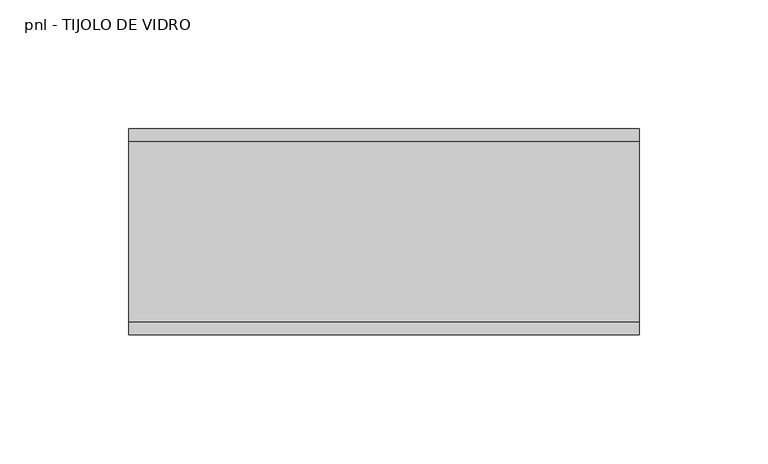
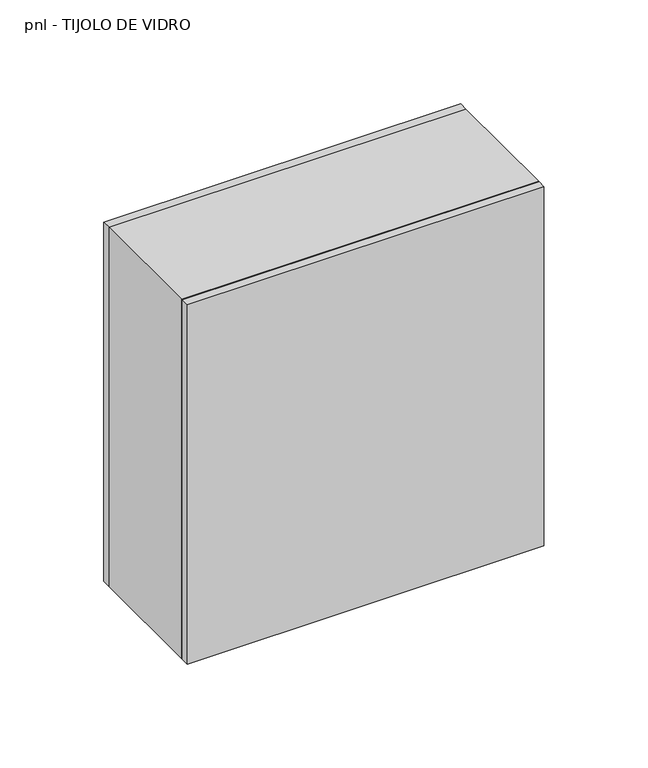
"""IFC4 building model written with IfcOpenShell, lengths in millimetres: plate geometry, pnl - TIJOLO DE VIDRO : e = 8."""

import ifcopenshell
import ifcopenshell.guid

model = None  # the IFC model being written
_history = None  # IfcOwnerHistory: only IFC2X3 demands one
_inside = {}  # id of a spatial element -> (the spatial element, [elements in it])
_under = {}  # id of a project, library or spatial element -> (it, [spatial elements below it])
_declared = {}  # id of a project -> (the project, [libraries it declares])
_typed = {}  # id of a type object -> (the type object, [elements of that type])
_made_of = {}  # id of a material, layer set ... -> (it, [elements and type objects made of it])


def new_model(schema):
    """Start an empty IFC model of exactly this schema.

    Asked for "IFC4X3", IfcOpenShell would pick the latest addendum, in which some entities
    have other attributes; the version numbers below select the first issue.
    IFC2X3 requires an IfcOwnerHistory on every rooted entity: one is made here for all.
    """
    global model, _history
    if schema == "IFC4X3":
        model = ifcopenshell.file(schema_version=(4, 3, 0, 0))
    else:
        model = ifcopenshell.file(schema=schema)
    _inside.clear()
    _under.clear()
    _declared.clear()
    _typed.clear()
    _made_of.clear()
    _history = None
    if model.schema == "IFC2X3":
        org = make("IfcOrganization", Name="unknown")
        user = make(
            "IfcPersonAndOrganization",
            ThePerson=make("IfcPerson", FamilyName="unknown"),
            TheOrganization=org,
        )
        app = make(
            "IfcApplication",
            ApplicationDeveloper=org,
            Version="unknown",
            ApplicationFullName="unknown",
            ApplicationIdentifier="unknown",
        )
        _history = make(
            "IfcOwnerHistory",
            OwningUser=user,
            OwningApplication=app,
            ChangeAction="ADDED",
            CreationDate=0,
        )
    return model


def make(cls, **values):
    """One entity of the class cls with the attributes given. An attribute that is None is left unset."""
    return model.create_entity(
        cls, **{name: value for name, value in values.items() if value is not None}
    )


def rooted(cls, **values):
    """An entity with a GlobalId (a new one), such as an element, a storey or a relation."""
    return make(cls, GlobalId=ifcopenshell.guid.new(), OwnerHistory=_history, **values)


def si_unit(unit_type, name, prefix=None):
    """IfcSIUnit, for example si_unit("LENGTHUNIT", "METRE", prefix="MILLI")."""
    return make("IfcSIUnit", UnitType=unit_type, Prefix=prefix, Name=name)


def assignment(units):
    """IfcUnitAssignment: the units of a project."""
    return None if units is None else make("IfcUnitAssignment", Units=units)


def point(xyz):
    """IfcCartesianPoint."""
    return None if xyz is None else make("IfcCartesianPoint", Coordinates=xyz)


def direction(xyz):
    """IfcDirection."""
    return None if xyz is None else make("IfcDirection", DirectionRatios=xyz)


def frame(location, z_axis=None, x_axis=None):
    """IfcAxis2Placement3D, a coordinate frame: its origin and axes. An axis left out is left unset."""
    return make(
        "IfcAxis2Placement3D",
        Location=point(location),
        Axis=direction(z_axis),
        RefDirection=direction(x_axis),
    )


def origin():
    """The frame at (0, 0, 0) with its axes left unset."""
    return frame((0.0, 0.0, 0.0))


def place(relative_to, where):
    """IfcLocalPlacement: puts the frame where relative to a parent placement (None: the world)."""
    return make(
        "IfcLocalPlacement", PlacementRelTo=relative_to, RelativePlacement=where
    )


def context(
    kind, dimensions, precision=None, world=None, true_north=None, identifier=None
):
    """IfcGeometricRepresentationContext, for example the 3D "Model" context."""
    return make(
        "IfcGeometricRepresentationContext",
        ContextIdentifier=identifier,
        ContextType=kind,
        CoordinateSpaceDimension=dimensions,
        Precision=precision,
        WorldCoordinateSystem=world,
        TrueNorth=true_north,
    )


def project(units=None, contexts=None):
    """IfcProject with its units and contexts."""
    return rooted(
        "IfcProject",
        Name="project",
        RepresentationContexts=contexts,
        UnitsInContext=assignment(units),
    )


def spatial(cls, under=None, at=None, **own):
    """A site, building, storey or space (cls), placed at a placement, below another one or the project."""
    s = rooted(cls, ObjectPlacement=at, **own)
    if under is not None:
        _under.setdefault(under.id(), (under, []))[1].append(s)
    return s


def polyline(points):
    """IfcPolyline through the points."""
    return make("IfcPolyline", Points=[point(p) for p in points])


def outline(outer, holes=None, kind="AREA"):
    """IfcArbitraryClosedProfileDef: a profile drawn as a closed curve; with holes, ...WithVoids."""
    if holes is None:
        return make("IfcArbitraryClosedProfileDef", ProfileType=kind, OuterCurve=outer)
    return make(
        "IfcArbitraryProfileDefWithVoids",
        ProfileType=kind,
        OuterCurve=outer,
        InnerCurves=holes,
    )


def extrude(swept, where, along, depth):
    """IfcExtrudedAreaSolid: the profile swept, set in the frame where, extruded along a direction by depth."""
    return make(
        "IfcExtrudedAreaSolid",
        SweptArea=swept,
        Position=where,
        ExtrudedDirection=direction(along),
        Depth=depth,
    )


def faces_of(points, faces, orient=None, outer=None):
    """IfcFace entities. A face is a list of loops; a loop is a list of indices into points, from 0.

    orient and outer hold one flag for each loop. By default every Orientation is true, the
    first loop of a face is its IfcFaceOuterBound and the others are IfcFaceBound.
    """
    made = []
    for i, loops in enumerate(faces):
        bounds = []
        for j, loop in enumerate(loops):
            is_outer = j == 0 if outer is None else outer[i][j]
            bounds.append(
                make(
                    "IfcFaceOuterBound" if is_outer else "IfcFaceBound",
                    Bound=make("IfcPolyLoop", Polygon=[points[k] for k in loop]),
                    Orientation=True if orient is None else orient[i][j],
                )
            )
        made.append(make("IfcFace", Bounds=bounds))
    return made


def faceted_brep(points, faces, orient=None, outer=None, voids=None):
    """IfcFacetedBrep: a solid bounded by flat faces; with voids (closed shells), ...WithVoids."""
    shared = [point(p) for p in points]
    hull = make("IfcClosedShell", CfsFaces=faces_of(shared, faces, orient, outer))
    if voids is None:
        return make("IfcFacetedBrep", Outer=hull)
    return make(
        "IfcFacetedBrepWithVoids",
        Outer=hull,
        Voids=[
            make(cls, CfsFaces=faces_of(shared, fs, o, b)) for cls, fs, o, b in voids
        ],
    )


def shape(context_of_items, identifier, shape_type, items):
    """IfcShapeRepresentation: the items that make up one representation, for example the "Body"."""
    return make(
        "IfcShapeRepresentation",
        ContextOfItems=context_of_items,
        RepresentationIdentifier=identifier,
        RepresentationType=shape_type,
        Items=items,
    )


def source(mapping_origin, context_of_items, identifier, shape_type, items):
    """IfcRepresentationMap: a shape defined once, which mapped items show again and again."""
    return make(
        "IfcRepresentationMap",
        MappingOrigin=mapping_origin,
        MappedRepresentation=shape(context_of_items, identifier, shape_type, items),
    )


def transform(
    local_origin,
    x_axis=None,
    y_axis=None,
    z_axis=None,
    scale=None,
    scale2=None,
    scale3=None,
    uniform=True,
):
    """IfcCartesianTransformationOperator3D, or its non-uniform kind. x_axis, y_axis, z_axis: its Axis1, 2, 3."""
    if uniform:
        return make(
            "IfcCartesianTransformationOperator3D",
            Axis1=direction(x_axis),
            Axis2=direction(y_axis),
            LocalOrigin=point(local_origin),
            Scale=scale,
            Axis3=direction(z_axis),
        )
    return make(
        "IfcCartesianTransformationOperator3DnonUniform",
        Axis1=direction(x_axis),
        Axis2=direction(y_axis),
        LocalOrigin=point(local_origin),
        Scale=scale,
        Axis3=direction(z_axis),
        Scale2=scale2,
        Scale3=scale3,
    )


def mapped(mapping_source, mapping_target):
    """IfcMappedItem: shows the shape of a source again, moved by a transform."""
    return make(
        "IfcMappedItem", MappingSource=mapping_source, MappingTarget=mapping_target
    )


def made_of(thing, what):
    """Note that an element or type object is made of a material, layer set ...; save() writes the relation."""
    if what is not None:
        _made_of.setdefault(what.id(), (what, []))[1].append(thing)
    return thing


def element(
    cls,
    number,
    at=None,
    inside=None,
    cuts=None,
    type_object=None,
    material=None,
    context=None,
    identifier="Body",
    shape_type=None,
    held_by="IfcProductDefinitionShape",
    body=None,
    shapes=None,
    **own,
):
    """One element of the class cls, such as IfcWall. Its Tag is "e" and its number.

    at: its placement. inside: the storey or other place that contains it. cuts: it is an
    opening in that element (IfcRelVoidsElement). A single representation is given by context,
    identifier, shape_type and body (its items); several are given by shapes. held_by: the class
    of the entity that holds the representations. save() writes the other relations.
    """
    e = rooted(cls, Tag="e%d" % number, ObjectPlacement=at, **own)
    if body is not None:
        shapes = [shape(context, identifier, shape_type, body)]
    if shapes is not None:
        e.Representation = make(held_by, Representations=shapes)
    if inside is not None:
        _inside.setdefault(inside.id(), (inside, []))[1].append(e)
    if cuts is not None:
        rooted(
            "IfcRelVoidsElement", RelatingBuildingElement=cuts, RelatedOpeningElement=e
        )
    if type_object is not None:
        _typed.setdefault(type_object.id(), (type_object, []))[1].append(e)
    return made_of(e, material)


def aggregate(whole, parts):
    """IfcRelAggregates: a whole, such as a stair, and the parts it consists of."""
    return rooted("IfcRelAggregates", RelatingObject=whole, RelatedObjects=parts)


def save(model, path):
    """Write the relations noted so far, then the file.

    IfcRelAggregates (storeys below a building ...), IfcRelContainedInSpatialStructure (elements
    in a storey), IfcRelDefinesByType, IfcRelAssociatesMaterial and IfcRelDeclares: one each for
    every whole, place, type object, material and project.
    """
    for whole, parts in _under.values():
        aggregate(whole, parts)
    for where, things in _inside.values():
        rooted(
            "IfcRelContainedInSpatialStructure",
            RelatedElements=things,
            RelatingStructure=where,
        )
    for kind, things in _typed.values():
        rooted("IfcRelDefinesByType", RelatedObjects=things, RelatingType=kind)
    for what, things in _made_of.values():
        rooted("IfcRelAssociatesMaterial", RelatedObjects=things, RelatingMaterial=what)
    for by, libraries in _declared.values():
        rooted("IfcRelDeclares", RelatingContext=by, RelatedDefinitions=libraries)
    model.write(path)


def pnl_tijolo_de_vidro_a28b313b(model_context):
    return source(origin(), model_context, "Body", "SolidModel", [
        extrude(outline(polyline([(211.1111111, -99.0909091), (0.0, -99.0909091), (0.0, 99.0909091), (211.1111111, 99.0909091), (211.1111111, -99.0909091)]), holes=[polyline([(196.1111111, -84.0909091), (196.1111111, 84.0909091), (15.0, 84.0909091), (15.0, -84.0909091), (196.1111111, -84.0909091)])]), frame((0.0, -35.0, 0.0), z_axis=(0.0, 1.0, 0.0), x_axis=(0.0, 0.0, 1.0)), (0.0, 0.0, 1.0), 70.0),
        faceted_brep([(-99.0909091, 35.0, 211.1111111), (-99.0909091, 35.0, 0.0), (99.0909091, 35.0, 0.0), (99.0909091, 35.0, 211.1111111), (-84.0909091, 35.0, 15.0), (-84.0909091, 35.0, 196.1111111), (84.0909091, 35.0, 196.1111111), (84.0909091, 35.0, 15.0), (-99.0909091, 40.0, 211.1111111), (99.0909091, 40.0, 211.1111111), (99.0909091, 40.0, 0.0), (-99.0909091, 40.0, 0.0), (-84.0909091, -35.0, 196.1111111), (-84.0909091, -35.0, 15.0), (84.0909091, -35.0, 15.0), (84.0909091, -35.0, 196.1111111), (-99.0909091, -35.0, 211.1111111), (99.0909091, -35.0, 211.1111111), (99.0909091, -35.0, 0.0), (-99.0909091, -35.0, 0.0), (-99.0909091, -40.0, 211.1111111), (-99.0909091, -40.0, 0.0), (99.0909091, -40.0, 0.0), (99.0909091, -40.0, 211.1111111)], [[[0, 1, 2, 3], [4, 5, 6, 7]], [[8, 9, 10, 11]], [[1, 0, 8, 11]], [[2, 1, 11, 10]], [[3, 2, 10, 9]], [[0, 3, 9, 8]], [[12, 5, 4, 13]], [[13, 4, 7, 14]], [[14, 7, 6, 15]], [[5, 12, 15, 6]], [[16, 17, 18, 19], [12, 13, 14, 15]], [[20, 21, 22, 23]], [[17, 16, 20, 23]], [[18, 17, 23, 22]], [[19, 18, 22, 21]], [[16, 19, 21, 20]]]),
    ])


if __name__ == "__main__":
    model = new_model("IFC4")
    model_context = context("Model", 3, world=origin())
    ifc_project = project(units=[si_unit("LENGTHUNIT", "METRE", prefix="MILLI")], contexts=[model_context])
    site = spatial("IfcSite", under=ifc_project)
    building = spatial("IfcBuilding", under=site)
    placement = place(None, origin())
    pnl_tijolo_de_vidro_shape = pnl_tijolo_de_vidro_a28b313b(model_context)
    element("IfcPlate", 1, ObjectType="pnl - TIJOLO DE VIDRO : e = 8", at=placement, inside=building, context=model_context, shape_type="MappedRepresentation", body=[
        mapped(pnl_tijolo_de_vidro_shape, transform((0.0, 0.0, 0.0), x_axis=(1.0, 0.0, 0.0), y_axis=(0.0, 1.0, 0.0), z_axis=(0.0, 0.0, 1.0))),
    ])
    save(model, "model.ifc")
